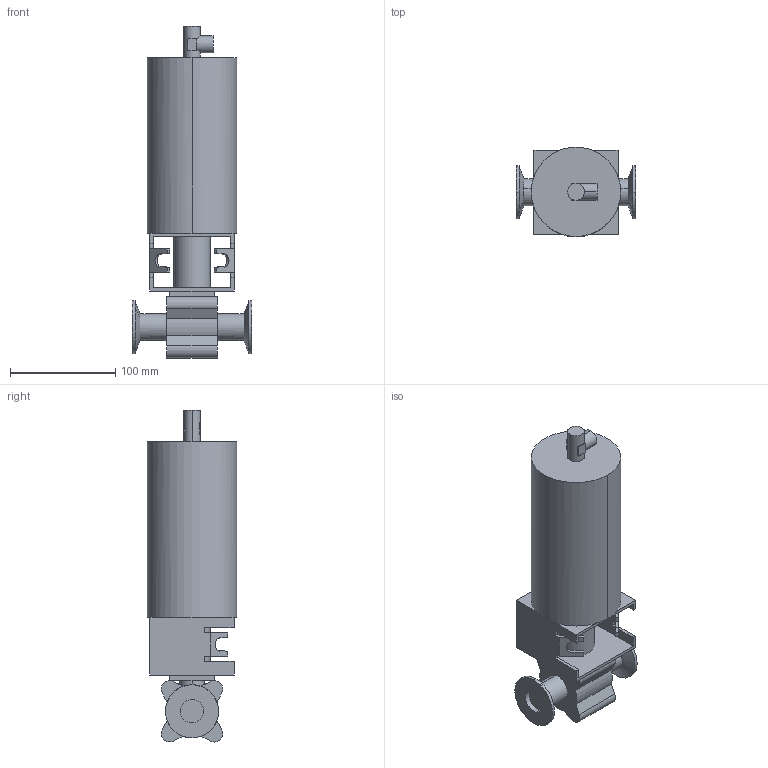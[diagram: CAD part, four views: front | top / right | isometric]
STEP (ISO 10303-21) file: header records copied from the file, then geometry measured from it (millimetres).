
FILE_DESCRIPTION(('Creo Elements/Direct Modeling STEP Export'),'2;1');
FILE_NAME('BLV1-1T-NC-12CL.stp','2019-05-10T 8:09:25',(''),(''),'Creo Elements/Direct Modeling STEP processor for AP214 (Solid Model)','Creo Elements/Direct Modeling 19.0F 14-Feb-2017 (C) Parametric Technology GmbH','');
FILE_SCHEMA(('AUTOMOTIVE_DESIGN { 1 0 10303 214 1 1 1 1 }'));
Length unit declared in the file: millimetre
Products named in the file (2): BLV1-1T-NC-12CL
Assembly tree (1 placements, depth 2):
  BLV1-1T-NC-12CL
    BLV1-1T-NC-12CL
Bounding box: 114 x 85 x 315.71 mm (x, y, z)
Volume: 1252002.1 mm3; surface area: 121347.3 mm2
Topology: 1 solids, 1 shells, 117 faces, 313 edges, 204 vertices
Faces by surface type: plane 80, cylinder 33, cone 4
Entity records: 3347 total; most frequent: ORIENTED_EDGE 626, CARTESIAN_POINT 601, DIRECTION 495, EDGE_CURVE 313, VERTEX_POINT 204, VECTOR 195, LINE 195, AXIS2_PLACEMENT_3D 150
